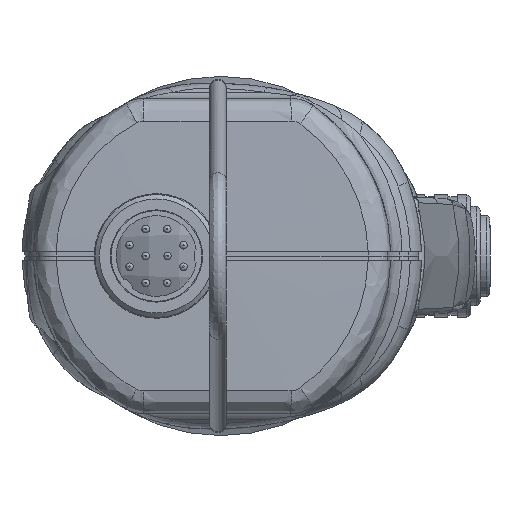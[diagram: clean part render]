
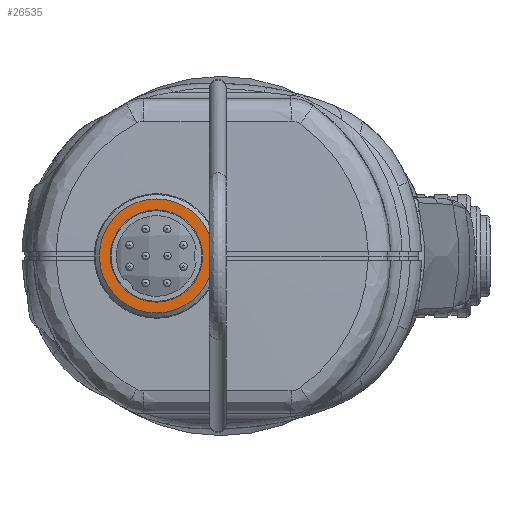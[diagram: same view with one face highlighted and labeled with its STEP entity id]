
A CAD part, front view. The second image highlights one B-rep face of the part: STEP entity #26535.
In plain terms, the highlighted planar face has unit normal (0, -1, 0).
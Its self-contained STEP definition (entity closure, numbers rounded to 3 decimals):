
#1555 = FACE_BOUND ( 'NONE', #39222, .T. ) ;
#1846 = EDGE_CURVE ( 'NONE', #53395, #53395, #78849, .T. ) ;
#2085 = AXIS2_PLACEMENT_3D ( 'NONE', #31624, #50405, #75199 ) ;
#7200 = AXIS2_PLACEMENT_3D ( 'NONE', #53966, #71469, #78723 ) ;
#8451 = EDGE_CURVE ( 'NONE', #65196, #65196, #20244, .T. ) ;
#20244 = CIRCLE ( 'NONE', #7200, 7.425 ) ;
#21577 = CARTESIAN_POINT ( 'NONE',  ( -37.56, -190.321, 6. ) ) ;
#26535 = ADVANCED_FACE ( 'NONE', ( #76930, #1555 ), #63990, .F. ) ;
#30474 = ORIENTED_EDGE ( 'NONE', *, *, #8451, .F. ) ;
#31624 = CARTESIAN_POINT ( 'NONE',  ( -37.56, -190.321, 0. ) ) ;
#32566 = DIRECTION ( 'NONE',  ( 0., 1., 0. ) ) ;
#34192 = CARTESIAN_POINT ( 'NONE',  ( -37.56, -190.321, 7.425 ) ) ;
#39222 = EDGE_LOOP ( 'NONE', ( #39267 ) ) ;
#39267 = ORIENTED_EDGE ( 'NONE', *, *, #1846, .T. ) ;
#39836 = AXIS2_PLACEMENT_3D ( 'NONE', #76155, #32566, #70070 ) ;
#50405 = DIRECTION ( 'NONE',  ( 0., 1., 0. ) ) ;
#52295 = EDGE_LOOP ( 'NONE', ( #30474 ) ) ;
#53395 = VERTEX_POINT ( 'NONE', #21577 ) ;
#53966 = CARTESIAN_POINT ( 'NONE',  ( -37.56, -190.321, 0. ) ) ;
#63990 = PLANE ( 'NONE',  #39836 ) ;
#65196 = VERTEX_POINT ( 'NONE', #34192 ) ;
#70070 = DIRECTION ( 'NONE',  ( 0., 0., 1. ) ) ;
#71469 = DIRECTION ( 'NONE',  ( 0., 1., 0. ) ) ;
#75199 = DIRECTION ( 'NONE',  ( 0., 0., 1. ) ) ;
#76155 = CARTESIAN_POINT ( 'NONE',  ( -37.56, -190.321, -6. ) ) ;
#76930 = FACE_OUTER_BOUND ( 'NONE', #52295, .T. ) ;
#78723 = DIRECTION ( 'NONE',  ( 0., 0., 1. ) ) ;
#78849 = CIRCLE ( 'NONE', #2085, 6. ) ;
